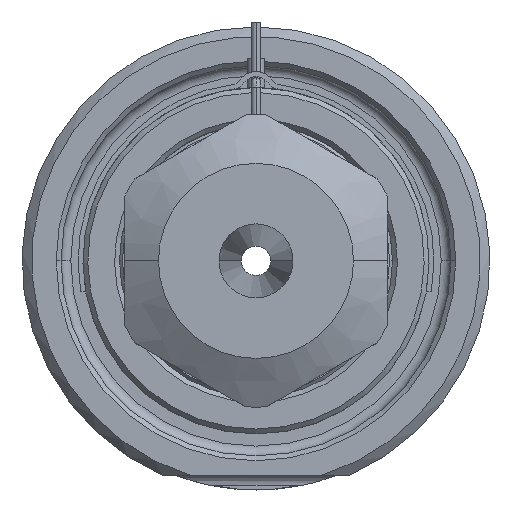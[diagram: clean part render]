
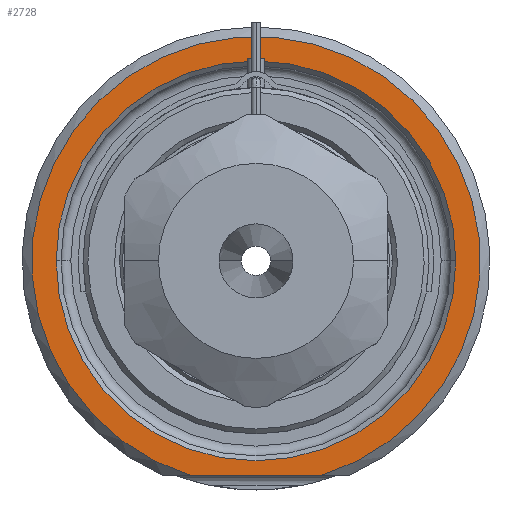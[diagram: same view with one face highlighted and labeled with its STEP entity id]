
A CAD part, front view. The second image highlights one B-rep face of the part: STEP entity #2728.
In plain terms, the highlighted planar face has unit normal (0, -1, 0).
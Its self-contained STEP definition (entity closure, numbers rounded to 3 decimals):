
#1=DIRECTION('',(1.,0.,0.));
#2=VECTOR('',#1,13.416);
#3=CARTESIAN_POINT('',(-6.708,0.,-22.));
#4=LINE('',#3,#2);
#5=CARTESIAN_POINT('',(0.,0.,0.));
#6=DIRECTION('',(0.,1.,0.));
#7=DIRECTION('',(-1.,0.,0.));
#8=AXIS2_PLACEMENT_3D('',#5,#6,#7);
#10=CARTESIAN_POINT('',(0.,0.,0.));
#11=DIRECTION('',(0.,1.,0.));
#12=DIRECTION('',(1.,0.,0.));
#13=AXIS2_PLACEMENT_3D('',#10,#11,#12);
#121=CARTESIAN_POINT('',(0.,0.,0.));
#122=DIRECTION('',(0.,-1.,0.));
#123=DIRECTION('',(0.292,0.,-0.957));
#124=AXIS2_PLACEMENT_3D('',#121,#122,#123);
#2268=CARTESIAN_POINT('',(-20.5,0.,0.));
#2269=CARTESIAN_POINT('',(20.5,0.,0.));
#2270=VERTEX_POINT('',#2268);
#2271=VERTEX_POINT('',#2269);
#2308=CARTESIAN_POINT('',(-6.708,0.,-22.));
#2309=CARTESIAN_POINT('',(6.708,0.,-22.));
#2310=VERTEX_POINT('',#2308);
#2311=VERTEX_POINT('',#2309);
#2711=CARTESIAN_POINT('',(0.,0.,0.));
#2712=DIRECTION('',(0.,-1.,0.));
#2713=DIRECTION('',(1.,0.,0.));
#2714=AXIS2_PLACEMENT_3D('',#2711,#2712,#2713);
#2715=PLANE('',#2714);
#2717=ORIENTED_EDGE('',*,*,#2716,.F.);
#2719=ORIENTED_EDGE('',*,*,#2718,.F.);
#2720=EDGE_LOOP('',(#2717,#2719));
#2721=FACE_OUTER_BOUND('',#2720,.F.);
#2723=ORIENTED_EDGE('',*,*,#2722,.F.);
#2725=ORIENTED_EDGE('',*,*,#2724,.F.);
#2726=EDGE_LOOP('',(#2723,#2725));
#2727=FACE_BOUND('',#2726,.F.);
#2728=ADVANCED_FACE('',(#2721,#2727),#2715,.T.);
#9=CIRCLE('',#8,20.5);
#14=CIRCLE('',#13,20.5);
#125=CIRCLE('',#124,23.);
#2716=EDGE_CURVE('',#2310,#2311,#4,.T.);
#2718=EDGE_CURVE('',#2311,#2310,#125,.T.);
#2722=EDGE_CURVE('',#2270,#2271,#9,.T.);
#2724=EDGE_CURVE('',#2271,#2270,#14,.T.);
